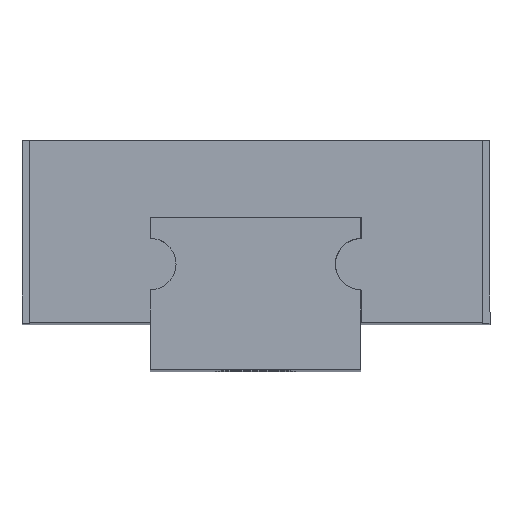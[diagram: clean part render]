
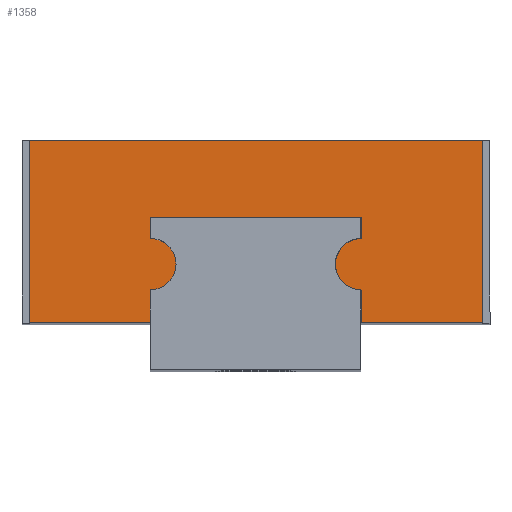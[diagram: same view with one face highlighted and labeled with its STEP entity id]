
A CAD part, top view. The second image highlights one B-rep face of the part: STEP entity #1358.
In plain terms, the highlighted planar face has unit normal (0, 0, 1).
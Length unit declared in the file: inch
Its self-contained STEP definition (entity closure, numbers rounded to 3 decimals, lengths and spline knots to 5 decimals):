
#11 = LINE ( 'NONE', #2298, #857 ) ;
#15 = CARTESIAN_POINT ( 'NONE',  ( 0., 0.17717, 0.21654 ) ) ;
#17 = VERTEX_POINT ( 'NONE', #2331 ) ;
#23 = EDGE_LOOP ( 'NONE', ( #144, #1380, #2234, #2084, #1421, #1260, #2060, #1690, #453, #756, #603, #1662, #527 ) ) ;
#31 = VERTEX_POINT ( 'NONE', #215 ) ;
#41 = LINE ( 'NONE', #963, #1826 ) ;
#55 = EDGE_CURVE ( 'NONE', #2137, #731, #2225, .T. ) ;
#116 = CARTESIAN_POINT ( 'NONE',  ( 0.77559, 0., 0.21654 ) ) ;
#144 = ORIENTED_EDGE ( 'NONE', *, *, #1907, .F. ) ;
#162 = LINE ( 'NONE', #629, #2049 ) ;
#164 = CARTESIAN_POINT ( 'NONE',  ( 0.57087, 0.17717, 0.21654 ) ) ;
#215 = CARTESIAN_POINT ( 'NONE',  ( 0.21654, 0., 0.21654 ) ) ;
#223 = DIRECTION ( 'NONE',  ( 0., 0., 1. ) ) ;
#235 = DIRECTION ( 'NONE',  ( 0., 1., 0. ) ) ;
#242 = EDGE_CURVE ( 'NONE', #889, #929, #663, .T. ) ;
#281 = AXIS2_PLACEMENT_3D ( 'NONE', #1621, #1820, #858 ) ;
#356 = VERTEX_POINT ( 'NONE', #2022 ) ;
#453 = ORIENTED_EDGE ( 'NONE', *, *, #2193, .T. ) ;
#519 = DIRECTION ( 'NONE',  ( 1., 0., 0. ) ) ;
#527 = ORIENTED_EDGE ( 'NONE', *, *, #242, .T. ) ;
#531 = DIRECTION ( 'NONE',  ( 0., 0., 1. ) ) ;
#581 = DIRECTION ( 'NONE',  ( 1., 0., 0. ) ) ;
#592 = AXIS2_PLACEMENT_3D ( 'NONE', #1860, #1880, #581 ) ;
#603 = ORIENTED_EDGE ( 'NONE', *, *, #1143, .T. ) ;
#606 = DIRECTION ( 'NONE',  ( 1., 0., 0. ) ) ;
#613 = VERTEX_POINT ( 'NONE', #2103 ) ;
#629 = CARTESIAN_POINT ( 'NONE',  ( 0., 0., 0.21654 ) ) ;
#639 = CARTESIAN_POINT ( 'NONE',  ( 0.57087, 0., 0.21654 ) ) ;
#647 = EDGE_CURVE ( 'NONE', #31, #613, #1564, .T. ) ;
#663 = LINE ( 'NONE', #867, #1392 ) ;
#731 = VERTEX_POINT ( 'NONE', #1328 ) ;
#756 = ORIENTED_EDGE ( 'NONE', *, *, #55, .T. ) ;
#813 = DIRECTION ( 'NONE',  ( 0., -1., 0. ) ) ;
#841 = CARTESIAN_POINT ( 'NONE',  ( 0.21654, 0.14173, 0.21654 ) ) ;
#845 = EDGE_CURVE ( 'NONE', #356, #31, #162, .T. ) ;
#848 = VERTEX_POINT ( 'NONE', #841 ) ;
#857 = VECTOR ( 'NONE', #235, 39.37008 ) ;
#858 = DIRECTION ( 'NONE',  ( 1., 0., 0. ) ) ;
#864 = EDGE_CURVE ( 'NONE', #1932, #889, #1856, .T. ) ;
#867 = CARTESIAN_POINT ( 'NONE',  ( 0., 0., 0.21654 ) ) ;
#889 = VERTEX_POINT ( 'NONE', #639 ) ;
#929 = VERTEX_POINT ( 'NONE', #116 ) ;
#963 = CARTESIAN_POINT ( 'NONE',  ( 0.77559, 0., 0.21654 ) ) ;
#977 = VERTEX_POINT ( 'NONE', #2200 ) ;
#985 = AXIS2_PLACEMENT_3D ( 'NONE', #1097, #531, #519 ) ;
#997 = CARTESIAN_POINT ( 'NONE',  ( 0.57087, 0., 0.21654 ) ) ;
#1097 = CARTESIAN_POINT ( 'NONE',  ( 0.57087, 0.09843, 0.21654 ) ) ;
#1143 = EDGE_CURVE ( 'NONE', #731, #1932, #1735, .T. ) ;
#1152 = CARTESIAN_POINT ( 'NONE',  ( 0., 0., 0.21654 ) ) ;
#1166 = DIRECTION ( 'NONE',  ( 0., -1., 0. ) ) ;
#1226 = DIRECTION ( 'NONE',  ( -1., 0., 0. ) ) ;
#1233 = DIRECTION ( 'NONE',  ( 0., -1., 0. ) ) ;
#1260 = ORIENTED_EDGE ( 'NONE', *, *, #1631, .T. ) ;
#1264 = LINE ( 'NONE', #1816, #1317 ) ;
#1317 = VECTOR ( 'NONE', #1233, 39.37008 ) ;
#1328 = CARTESIAN_POINT ( 'NONE',  ( 0.57087, 0.14173, 0.21654 ) ) ;
#1356 = DIRECTION ( 'NONE',  ( 1., 0., 0. ) ) ;
#1358 = ADVANCED_FACE ( 'NONE', ( #1412 ), #1732, .T. ) ;
#1359 = VECTOR ( 'NONE', #813, 39.37008 ) ;
#1370 = DIRECTION ( 'NONE',  ( 1., 0., 0. ) ) ;
#1380 = ORIENTED_EDGE ( 'NONE', *, *, #1865, .T. ) ;
#1383 = CARTESIAN_POINT ( 'NONE',  ( 0.25984, 0.09843, 0.21654 ) ) ;
#1392 = VECTOR ( 'NONE', #2172, 39.37008 ) ;
#1412 = FACE_OUTER_BOUND ( 'NONE', #23, .T. ) ;
#1421 = ORIENTED_EDGE ( 'NONE', *, *, #647, .T. ) ;
#1424 = EDGE_CURVE ( 'NONE', #848, #977, #11, .T. ) ;
#1505 = VERTEX_POINT ( 'NONE', #1383 ) ;
#1510 = CARTESIAN_POINT ( 'NONE',  ( 0.01181, 0.30709, 0.21654 ) ) ;
#1530 = DIRECTION ( 'NONE',  ( 0., 1., 0. ) ) ;
#1564 = LINE ( 'NONE', #2306, #2418 ) ;
#1621 = CARTESIAN_POINT ( 'NONE',  ( 0.21654, 0.09843, 0.21654 ) ) ;
#1631 = EDGE_CURVE ( 'NONE', #613, #1505, #2189, .T. ) ;
#1662 = ORIENTED_EDGE ( 'NONE', *, *, #864, .T. ) ;
#1690 = ORIENTED_EDGE ( 'NONE', *, *, #1424, .T. ) ;
#1692 = EDGE_CURVE ( 'NONE', #1505, #848, #2096, .T. ) ;
#1694 = VERTEX_POINT ( 'NONE', #1510 ) ;
#1732 = PLANE ( 'NONE',  #1835 ) ;
#1735 = CIRCLE ( 'NONE', #985, 0.04331 ) ;
#1760 = VECTOR ( 'NONE', #606, 39.37008 ) ;
#1798 = CARTESIAN_POINT ( 'NONE',  ( 0.57087, 0.05512, 0.21654 ) ) ;
#1816 = CARTESIAN_POINT ( 'NONE',  ( 0.01181, 0., 0.21654 ) ) ;
#1820 = DIRECTION ( 'NONE',  ( 0., 0., 1. ) ) ;
#1826 = VECTOR ( 'NONE', #1166, 39.37008 ) ;
#1835 = AXIS2_PLACEMENT_3D ( 'NONE', #1152, #223, #1356 ) ;
#1856 = LINE ( 'NONE', #1948, #1359 ) ;
#1860 = CARTESIAN_POINT ( 'NONE',  ( 0.21654, 0.09843, 0.21654 ) ) ;
#1865 = EDGE_CURVE ( 'NONE', #17, #1694, #2044, .T. ) ;
#1880 = DIRECTION ( 'NONE',  ( 0., 0., 1. ) ) ;
#1907 = EDGE_CURVE ( 'NONE', #17, #929, #41, .T. ) ;
#1912 = CARTESIAN_POINT ( 'NONE',  ( 0., 0.30709, 0.21654 ) ) ;
#1932 = VERTEX_POINT ( 'NONE', #1798 ) ;
#1940 = EDGE_CURVE ( 'NONE', #1694, #356, #1264, .T. ) ;
#1948 = CARTESIAN_POINT ( 'NONE',  ( 0.57087, 0., 0.21654 ) ) ;
#2022 = CARTESIAN_POINT ( 'NONE',  ( 0.01181, 0., 0.21654 ) ) ;
#2044 = LINE ( 'NONE', #1912, #2386 ) ;
#2049 = VECTOR ( 'NONE', #1370, 39.37008 ) ;
#2060 = ORIENTED_EDGE ( 'NONE', *, *, #1692, .T. ) ;
#2084 = ORIENTED_EDGE ( 'NONE', *, *, #845, .T. ) ;
#2096 = CIRCLE ( 'NONE', #592, 0.04331 ) ;
#2103 = CARTESIAN_POINT ( 'NONE',  ( 0.21654, 0.05512, 0.21654 ) ) ;
#2137 = VERTEX_POINT ( 'NONE', #164 ) ;
#2172 = DIRECTION ( 'NONE',  ( 1., 0., 0. ) ) ;
#2189 = CIRCLE ( 'NONE', #281, 0.04331 ) ;
#2193 = EDGE_CURVE ( 'NONE', #977, #2137, #2241, .T. ) ;
#2200 = CARTESIAN_POINT ( 'NONE',  ( 0.21654, 0.17717, 0.21654 ) ) ;
#2225 = LINE ( 'NONE', #997, #2368 ) ;
#2234 = ORIENTED_EDGE ( 'NONE', *, *, #1940, .T. ) ;
#2241 = LINE ( 'NONE', #15, #1760 ) ;
#2298 = CARTESIAN_POINT ( 'NONE',  ( 0.21654, 0., 0.21654 ) ) ;
#2306 = CARTESIAN_POINT ( 'NONE',  ( 0.21654, 0., 0.21654 ) ) ;
#2325 = DIRECTION ( 'NONE',  ( 0., -1., 0. ) ) ;
#2331 = CARTESIAN_POINT ( 'NONE',  ( 0.77559, 0.30709, 0.21654 ) ) ;
#2368 = VECTOR ( 'NONE', #2325, 39.37008 ) ;
#2386 = VECTOR ( 'NONE', #1226, 39.37008 ) ;
#2418 = VECTOR ( 'NONE', #1530, 39.37008 ) ;
